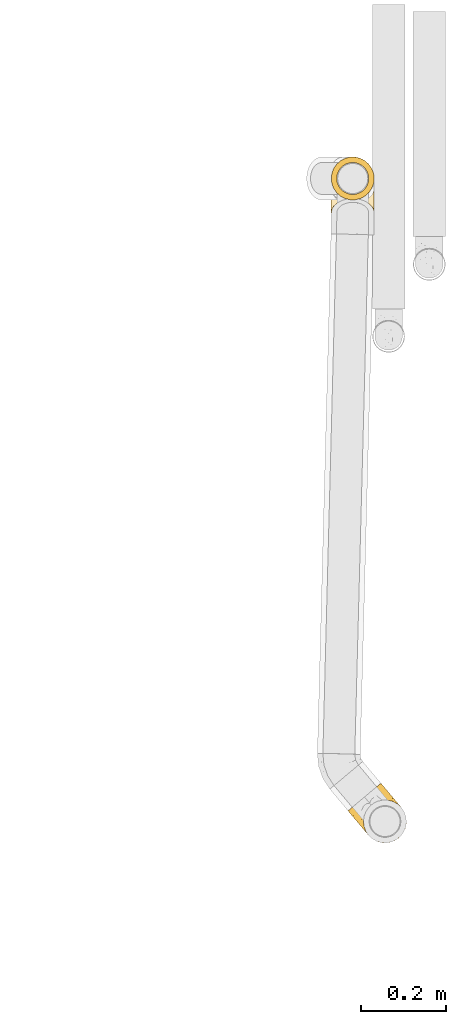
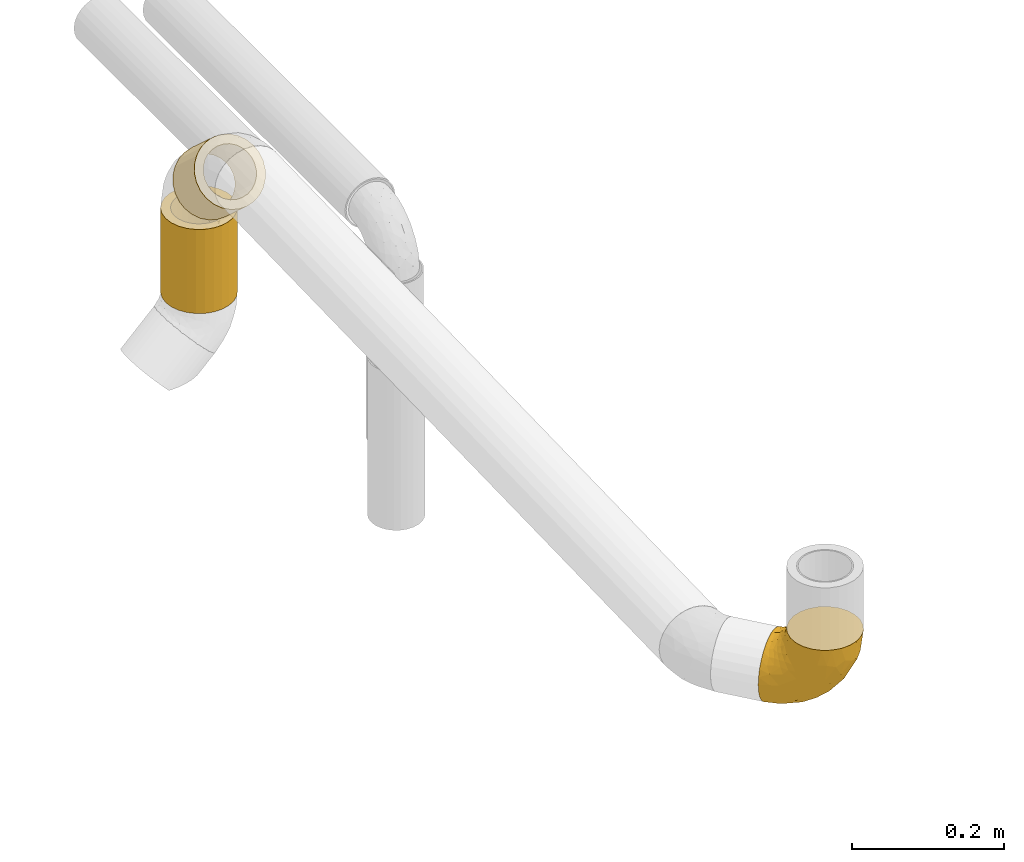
# One storey, part 8 of 156: 3 coverings.
"""IFC2X3 building model written with IfcOpenShell, lengths in millimetres."""

from ifc_helpers import new_model, entity, si_unit, converted_unit, derived_unit, direction, frame, origin_with_axes, origin_2d_with_axis, place, context, subcontext, project, spatial, hollow_circle, extrude, open_shell, surface_model, source, transform, mapped, element, save


model = new_model("IFC2X3")

# Units and contexts
model_context = context("Model", 3, precision=0.01, world=frame((0.0, 4.29681676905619e-09, 0.0)), true_north=direction((4.01073788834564e-13, 1.0)))
plan_context = context("Plan", 3, precision=0.01, world=frame((0.0, 4.29681676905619e-09, 0.0)), true_north=direction((4.01073788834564e-13, 1.0)))
body_context = subcontext(model_context, "Body", "Model", "MODEL_VIEW")
ifc_project = project(units=[converted_unit("PLANEANGLEUNIT", "DEGREE", entity("IfcPositiveLengthMeasure", 0.0174532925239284), si_unit("PLANEANGLEUNIT", "RADIAN"), dimensions=[0, 0, 0, 0, 0, 0, 0]), si_unit("AREAUNIT", "SQUARE_METRE"), si_unit("LENGTHUNIT", "METRE", prefix="MILLI"), si_unit("MASSUNIT", "GRAM", prefix="KILO"), si_unit("POWERUNIT", "WATT"), si_unit("PRESSUREUNIT", "PASCAL", prefix="KILO"), si_unit("FORCEUNIT", "NEWTON", prefix="KILO"), si_unit("ELECTRICVOLTAGEUNIT", "VOLT"), si_unit("ELECTRICCURRENTUNIT", "AMPERE"), si_unit("THERMODYNAMICTEMPERATUREUNIT", "DEGREE_CELSIUS"), si_unit("TIMEUNIT", "SECOND"), si_unit("VOLUMEUNIT", "CUBIC_METRE"), derived_unit("LINEARVELOCITYUNIT", [(si_unit("LENGTHUNIT", "METRE"), 1), (si_unit("TIMEUNIT", "SECOND"), -1)]), derived_unit("VOLUMETRICFLOWRATEUNIT", [(si_unit("VOLUMEUNIT", "CUBIC_METRE"), 1), (si_unit("TIMEUNIT", "SECOND"), -1)]), derived_unit("THERMALTRANSMITTANCEUNIT", [(si_unit("POWERUNIT", "WATT"), 1), (si_unit("THERMODYNAMICTEMPERATUREUNIT", "KELVIN"), -1), (si_unit("AREAUNIT", "SQUARE_METRE"), -1)]), derived_unit("SOUNDPRESSUREUNIT", [(si_unit("PRESSUREUNIT", "PASCAL"), 1)])], contexts=[model_context, plan_context])

# Site, building, storey
site_placement = place(None, frame((0.0, -4.29681676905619e-09, 0.0), z_axis=(0.0, 0.0, 1.0), x_axis=(1.0, 0.0, 0.0)))
site = spatial("IfcSite", under=ifc_project, at=site_placement, CompositionType="ELEMENT")
building_placement = place(site_placement, frame((0.0, 4.29681676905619e-09, 0.0), z_axis=(0.0, 0.0, 1.0), x_axis=(1.0, 0.0, 0.0)))
building = spatial("IfcBuilding", under=site, at=building_placement, Name="mc-building", CompositionType="ELEMENT")
storey_placement = place(building_placement, frame((0.0, 0.0, 205200.0), z_axis=(0.0, 0.0, 1.0), x_axis=(1.0, 0.0, 0.0)))
storey = spatial("IfcBuildingStorey", under=building, at=storey_placement, Name="Nivå D + 1,2 m", CompositionType="ELEMENT", Elevation=205200.0)

# Coverings
shared_shape_1 = source(origin_with_axes(), body_context, "Body", "SurfaceModel", [
    surface_model("IfcShellBasedSurfaceModel", [(11.24292, 75.0, 49.23258), (-31.47888, 75.0, 39.48835), (0.0, 75.0, 50.5), (31.49394, 75.0, 39.47635), (21.91909, 75.0, 45.49509), (45.50245, 75.0, 21.90382), (39.48835, 75.0, 31.47888), (-45.50245, 75.0, -21.90382), (-49.23258, 75.0, 11.24292), (-11.23089, 75.0, 49.23533), (-21.90382, 75.0, 45.50245), (-45.49509, 75.0, 21.91909), (-39.47635, 75.0, 31.49394), (-50.5, 75.0, 0.0), (49.23533, 75.0, 11.23089), (49.23258, 75.0, -11.24292), (39.47635, 75.0, -31.49394), (45.49509, 75.0, -21.91909), (31.47888, 75.0, -39.48835), (21.90382, 75.0, -45.50245), (-11.24292, 75.0, -49.23258), (11.23089, 75.0, -49.23533), (0.0, 75.0, -50.5), (-31.49394, 75.0, -39.47635), (-39.48835, 75.0, -31.47888), (-49.23533, 75.0, -11.23089), (-21.91909, 75.0, -45.49509), (50.5, 75.0, 0.0), (-75.0, 25.25, -43.73428), (-75.0, 50.5, 0.0), (-75.0, 48.77925, -13.07036), (-75.0, 43.73428, -25.25), (-75.0, 13.07036, 48.77925), (-75.0, 35.70889, -35.70889), (-75.0, 13.07036, -48.77925), (-75.0, 48.77925, 13.07036), (-75.0, 35.70889, 35.70889), (-75.0, 43.73428, 25.25), (-75.0, 25.25, 43.73428), (-75.0, 0.0, 50.5), (-75.0, 0.0, -50.5), (-75.0, -35.70889, -35.70889), (-75.0, -13.07036, -48.77925), (-75.0, -25.25, -43.73428), (-75.0, -25.25, 43.73428), (-75.0, -43.73428, -25.25), (-75.0, -48.77925, -13.07036), (-75.0, -50.5, 0.0), (-75.0, -35.70889, 35.70889), (-75.0, -13.07036, 48.77925), (-75.0, -43.73428, 25.25), (-75.0, -48.77925, 13.07036), (12.64934, -12.64934, 0.0), (26.53163, 1.23295, 0.0), (11.64011, -11.64012, 17.0697), (-36.21837, -44.35759, 0.0), (-43.96193, -45.82224, 8.69831), (-50.1633, -46.56625, 0.0), (-13.93902, -32.39238, 13.94061), (-27.04529, -32.26369, 27.28364), (-45.2062, -43.62199, 17.67364), (-52.64686, -39.03065, 29.20162), (6.1382, 52.8732, 49.67312), (-19.65704, -0.83379, 46.83764), (-49.45987, -19.06709, 45.22422), (-23.23209, -15.49393, 41.16316), (-49.7688, -7.34228, 49.26021), (-44.8156, -29.06527, 37.91745), (33.6367, 44.70154, 33.50702), (26.64162, 52.3117, 41.24235), (21.07138, 25.24575, 38.06097), (-4.22725, 24.69178, 49.09447), (-5.70904, 46.29874, 50.5), (-21.96699, 21.96699, 50.5), (0.2263, 8.20988, 43.53163), (35.45552, 17.83502, 10.6165), (44.35759, 36.21837, 0.0), (44.47618, 45.03363, 15.14065), (-46.29874, 5.70904, 50.5), (-27.11707, 6.63076, 49.78474), (33.03742, 23.23942, 23.31327), (41.55445, 52.84592, 25.41048), (46.56625, 50.1633, 0.0), (4.57882, -11.26336, 27.48812), (22.55206, 4.12106, 21.73596), (19.66588, 8.90627, 30.22564), (-1.23295, -26.53163, 0.0), (12.07449, 31.0651, 45.19532), (17.71923, 53.83757, 46.32595), (3.04218, -2.48883, 36.42539), (-13.45794, -19.37586, 33.63512), (-18.72566, -35.44461, 0.0), (35.44461, 18.72566, 0.0), (-48.52842, 68.17879, 16.68598), (-55.27416, 12.69306, 49.57038), (-58.88306, 3.20586, 50.5), (-38.27136, 29.97394, 47.59046), (-23.57111, 41.59228, 48.61379), (-36.94496, 65.19489, 35.7157), (-27.7375, 65.85146, 42.76423), (-61.4974, 42.7792, 30.74245), (-63.84733, 32.17071, 40.06434), (-51.42312, 36.25154, 40.88495), (-45.46439, 62.06116, 26.87553), (-43.34221, 68.87219, 26.87553), (-36.51863, 43.60511, 43.68418), (-65.25465, 51.47265, 9.82931), (-62.75, 53.78238, 0.0), (-68.875, 52.14119, 0.0), (-51.88239, 69.84084, 0.0), (-64.63162, 17.93727, 47.55155), (-67.6261, 47.6319, 19.32551), (-68.85458, 40.6091, 30.74245), (-44.41033, 19.8553, 49.06838), (-54.82145, 23.11094, 46.65592), (-18.51685, 60.44696, 47.66853), (-54.54935, 48.93662, 28.23238), (-62.70186, 49.7903, 18.59835), (-3.20586, 58.88306, 50.5), (-61.04403, 53.85982, 9.12542), (-30.90564, 55.6835, 42.76423), (-40.3113, 56.53409, 35.71531), (-52.18855, 61.13263, 14.72938), (-53.78238, 62.75, 0.0), (-56.73444, 57.02186, 10.61847), (-58.26619, 58.26619, 0.0), (-13.83801, 34.13287, 50.5), (-70.20679, 50.0494, 9.52724), (-46.98514, 47.44109, 35.7157), (-50.60359, 55.15507, 25.56392), (-52.83369, 43.2423, 35.13728), (-58.30018, 52.78702, 17.93024), (-34.13287, 13.83801, 50.5), (-51.7235, 52.67811, -26.88284), (-57.10258, 45.71425, -29.92521), (-56.9186, 54.00325, -17.71529), (-60.51936, 21.24165, -46.65592), (-70.0781, 47.08652, -19.32551), (-67.84416, 50.44944, -10.35086), (-64.15319, 48.81348, -19.32551), (-18.53163, 60.44501, -47.6637), (-62.8657, 52.46804, -10.44324), (-57.90228, 34.17845, -40.06435), (-65.95799, 41.25474, -30.74245), (-43.35228, 68.87084, -26.8602), (-48.5334, 68.17884, -16.67216), (-45.47548, 62.05985, -26.8602), (-36.95883, 65.19564, -35.70208), (-55.23148, 12.55824, -49.59768), (-52.18863, 61.13975, -14.71703), (-67.2194, 31.43175, -40.06434), (-55.97795, 58.02605, -9.97117), (-3.20586, 58.88306, -50.5), (-51.08787, 25.5783, -46.32865), (-41.32575, 29.23594, -47.11339), (-44.57478, 19.12548, -49.20135), (-23.58829, 41.57625, -48.61219), (-31.49814, 46.19734, -45.04631), (-38.07713, 57.85881, -37.07141), (-30.92319, 55.68162, -42.7546), (-38.79962, 50.15024, -39.79427), (-27.75338, 65.85005, -42.7546), (-40.50037, 40.68263, -43.08729), (-31.85017, 34.10086, -48.04724), (-5.70904, 46.29874, -50.5), (-21.96699, 21.96699, -50.5), (-13.83801, 34.13287, -50.5), (-32.99402, 23.81556, -49.7299), (-58.88306, 3.20586, -50.5), (-49.98369, 39.29273, -39.54988), (-47.00535, 47.43996, -35.70209), (-69.84084, 51.88239, 0.0), (-44.82061, 55.09846, -32.26415), (-49.27707, 57.82009, -24.66381), (-46.29874, 5.70904, -50.5), (-34.13287, 13.83801, -50.5), (-27.12034, 6.63398, -49.78551), (-44.8115, -29.06446, -37.91714), (-49.45933, -19.06701, -45.22419), (-23.22135, -15.48723, -41.1635), (3.03431, -2.47986, -36.43681), (0.21934, 8.21978, -43.53855), (21.06009, 25.25195, -38.07219), (19.65845, 8.91335, -30.23922), (-4.23256, 24.69711, -49.09625), (-49.7688, -7.34228, -49.26021), (-43.96192, -45.82226, -8.69822), (-45.20209, -43.62105, -17.67341), (-19.66242, -0.82834, -46.8407), (12.06287, 31.07048, -45.20169), (-52.64059, -39.02974, -29.20117), (-27.03461, -32.25951, -27.28279), (11.63925, -11.63926, -17.0731), (4.56555, -11.2681, -27.49661), (6.13272, 52.87845, -49.67434), (44.47172, 45.03273, -15.15371), (33.62422, 44.70155, -33.52058), (35.44701, 17.82392, -10.62791), (26.62716, 52.31215, -41.25239), (-13.93805, -32.39219, -13.93949), (22.54286, 4.11912, -21.74918), (33.03036, 23.24222, -23.32782), (41.54481, 52.84076, -25.42509), (-13.43916, -19.35244, -33.6456), (17.70473, 53.84028, -46.33234)], [open_shell([[[0, 1, 2]], [[3, 0, 4]], [[0, 5, 1]], [[6, 5, 0]], [[3, 6, 0]], [[5, 7, 8]], [[9, 1, 10]], [[9, 2, 1]], [[11, 12, 8]], [[8, 12, 1]], [[5, 8, 1]], [[7, 13, 8]], [[5, 14, 7]], [[7, 14, 15]], [[16, 15, 17]], [[16, 18, 19]], [[19, 20, 15]], [[19, 15, 16]], [[21, 22, 19]], [[7, 23, 24]], [[25, 13, 7]], [[20, 23, 7]], [[26, 23, 20]], [[7, 15, 20]], [[22, 20, 19]], [[14, 27, 15]], [[28, 29, 30]], [[28, 30, 31]], [[29, 28, 32]], [[28, 31, 33]], [[32, 28, 34]], [[35, 36, 37]], [[36, 35, 32]], [[36, 32, 38]], [[35, 29, 32]], [[34, 39, 32]], [[34, 40, 39]], [[41, 40, 42]], [[41, 42, 43]], [[44, 41, 45]], [[41, 44, 39]], [[46, 47, 45]], [[44, 47, 48]], [[49, 39, 44]], [[50, 47, 51]], [[47, 50, 48]], [[45, 47, 44]], [[39, 40, 41]], [[52, 53, 54]], [[55, 56, 57]], [[58, 59, 60]], [[60, 59, 61]], [[62, 0, 2]], [[63, 64, 65]], [[50, 51, 60]], [[49, 64, 66]], [[48, 67, 44]], [[61, 48, 50]], [[68, 69, 70]], [[69, 3, 4]], [[71, 72, 73]], [[39, 49, 66]], [[63, 65, 74]], [[75, 76, 77]], [[78, 79, 73]], [[75, 77, 80]], [[69, 68, 3]], [[64, 44, 67]], [[5, 77, 14]], [[48, 61, 67]], [[5, 6, 81]], [[77, 82, 14]], [[79, 71, 73]], [[54, 83, 58]], [[54, 84, 83]], [[68, 6, 3]], [[62, 2, 72]], [[68, 70, 85]], [[51, 57, 56]], [[54, 86, 52]], [[87, 88, 62]], [[87, 69, 88]], [[44, 64, 49]], [[83, 89, 90]], [[80, 77, 81]], [[56, 91, 58]], [[80, 68, 85]], [[81, 77, 5]], [[74, 71, 63]], [[60, 61, 50]], [[58, 60, 56]], [[58, 86, 54]], [[88, 69, 4]], [[70, 69, 87]], [[74, 70, 87]], [[70, 89, 85]], [[6, 68, 81]], [[80, 81, 68]], [[65, 64, 67]], [[63, 79, 66]], [[90, 67, 59]], [[74, 65, 89]], [[63, 66, 64]], [[39, 66, 78]], [[72, 71, 62]], [[87, 62, 71]], [[75, 80, 84]], [[75, 53, 92]], [[4, 0, 88]], [[62, 88, 0]], [[82, 77, 76]], [[82, 27, 14]], [[67, 61, 59]], [[51, 47, 57]], [[51, 56, 60]], [[66, 79, 78]], [[71, 79, 63]], [[83, 85, 89]], [[84, 80, 85]], [[90, 89, 65]], [[58, 83, 59]], [[67, 90, 65]], [[59, 83, 90]], [[83, 84, 85]], [[75, 84, 54]], [[70, 74, 89]], [[71, 74, 87]], [[54, 53, 75]], [[91, 56, 55]], [[91, 86, 58]], [[76, 75, 92]], [[11, 8, 93]], [[78, 94, 95]], [[96, 73, 97]], [[94, 32, 95]], [[98, 99, 1]], [[100, 101, 102]], [[103, 104, 93]], [[105, 102, 96]], [[106, 107, 108]], [[8, 109, 93]], [[110, 101, 38]], [[37, 111, 35]], [[36, 112, 37]], [[37, 112, 111]], [[8, 13, 109]], [[113, 96, 114]], [[97, 72, 115]], [[100, 116, 117]], [[98, 1, 12]], [[10, 99, 115]], [[32, 94, 110]], [[12, 11, 104]], [[115, 118, 9]], [[10, 115, 9]], [[106, 119, 107]], [[120, 99, 98]], [[121, 120, 98]], [[103, 93, 122]], [[93, 123, 122]], [[124, 123, 125]], [[97, 115, 120]], [[104, 98, 12]], [[38, 101, 36]], [[121, 98, 103]], [[97, 105, 96]], [[10, 1, 99]], [[97, 73, 126]], [[123, 93, 109]], [[111, 106, 127]], [[128, 129, 116]], [[129, 103, 122]], [[102, 101, 114]], [[112, 101, 100]], [[125, 119, 124]], [[129, 128, 121]], [[96, 102, 114]], [[130, 128, 116]], [[113, 114, 94]], [[97, 120, 105]], [[118, 115, 72]], [[118, 2, 9]], [[35, 127, 29]], [[115, 99, 120]], [[93, 104, 11]], [[98, 104, 103]], [[124, 129, 122]], [[119, 125, 107]], [[116, 129, 131]], [[32, 39, 95]], [[132, 113, 78]], [[94, 114, 110]], [[96, 132, 73]], [[78, 113, 94]], [[132, 96, 113]], [[101, 110, 114]], [[38, 32, 110]], [[127, 106, 108]], [[117, 106, 111]], [[121, 105, 120]], [[102, 105, 128]], [[29, 127, 108]], [[111, 127, 35]], [[129, 121, 103]], [[105, 121, 128]], [[117, 116, 131]], [[130, 100, 102]], [[101, 112, 36]], [[111, 112, 100]], [[100, 117, 111]], [[119, 117, 131]], [[117, 119, 106]], [[119, 131, 124]], [[129, 124, 131]], [[123, 124, 122]], [[100, 130, 116]], [[102, 128, 130]], [[126, 72, 97]], [[133, 134, 135]], [[28, 136, 34]], [[137, 138, 139]], [[140, 26, 20]], [[141, 138, 107]], [[134, 142, 143]], [[144, 145, 7]], [[146, 144, 147]], [[148, 34, 136]], [[145, 146, 149]], [[150, 28, 33]], [[31, 137, 143]], [[125, 151, 141]], [[28, 150, 136]], [[109, 13, 25]], [[140, 20, 152]], [[149, 123, 145]], [[153, 154, 155]], [[145, 123, 109]], [[145, 25, 7]], [[137, 31, 30]], [[148, 153, 155]], [[140, 156, 157]], [[23, 147, 24]], [[158, 159, 160]], [[23, 26, 161]], [[158, 147, 159]], [[162, 157, 163]], [[164, 140, 152]], [[31, 143, 33]], [[161, 147, 23]], [[161, 140, 159]], [[162, 160, 157]], [[156, 140, 164]], [[165, 156, 166]], [[24, 144, 7]], [[154, 167, 155]], [[109, 25, 145]], [[34, 148, 168]], [[162, 169, 170]], [[141, 151, 135]], [[30, 29, 171]], [[134, 143, 139]], [[150, 143, 142]], [[146, 172, 173]], [[149, 135, 151]], [[20, 22, 152]], [[140, 161, 26]], [[147, 161, 159]], [[147, 144, 24]], [[145, 144, 146]], [[135, 134, 139]], [[134, 170, 169]], [[141, 139, 138]], [[172, 133, 173]], [[168, 148, 174]], [[168, 40, 34]], [[167, 165, 175]], [[175, 174, 155]], [[148, 155, 174]], [[163, 167, 154]], [[175, 155, 167]], [[153, 148, 136]], [[136, 142, 153]], [[169, 153, 142]], [[162, 163, 154]], [[163, 156, 165]], [[154, 153, 169]], [[160, 162, 170]], [[154, 169, 162]], [[134, 169, 142]], [[172, 160, 170]], [[157, 160, 159]], [[133, 172, 170]], [[158, 146, 147]], [[134, 133, 170]], [[173, 135, 149]], [[140, 157, 159]], [[157, 156, 163]], [[160, 172, 158]], [[146, 158, 172]], [[135, 173, 133]], [[149, 151, 123]], [[149, 146, 173]], [[143, 150, 33]], [[136, 150, 142]], [[138, 30, 171]], [[143, 137, 139]], [[30, 138, 137]], [[107, 138, 171]], [[125, 141, 107]], [[135, 139, 141]], [[156, 164, 166]], [[165, 167, 163]], [[123, 151, 125]], [[174, 165, 176]], [[177, 178, 179]], [[180, 179, 181]], [[180, 182, 183]], [[165, 164, 184]], [[174, 185, 40]], [[178, 43, 42]], [[177, 43, 178]], [[186, 46, 187]], [[176, 184, 188]], [[181, 184, 189]], [[190, 187, 45]], [[45, 187, 46]], [[190, 177, 191]], [[52, 86, 192]], [[177, 41, 43]], [[183, 193, 180]], [[189, 184, 194]], [[22, 194, 164]], [[192, 53, 52]], [[22, 21, 194]], [[17, 15, 195]], [[16, 196, 18]], [[197, 76, 92]], [[195, 15, 82]], [[196, 198, 18]], [[199, 187, 191]], [[197, 192, 200]], [[201, 195, 197]], [[16, 17, 202]], [[189, 198, 182]], [[202, 17, 195]], [[76, 195, 82]], [[188, 178, 185]], [[177, 179, 203]], [[202, 201, 196]], [[183, 182, 196]], [[190, 45, 41]], [[18, 198, 19]], [[19, 198, 204]], [[46, 186, 57]], [[199, 91, 186]], [[199, 191, 193]], [[91, 55, 186]], [[182, 198, 196]], [[204, 198, 189]], [[183, 196, 201]], [[181, 182, 180]], [[201, 202, 195]], [[196, 16, 202]], [[185, 178, 42]], [[179, 178, 188]], [[181, 179, 188]], [[180, 193, 203]], [[40, 185, 42]], [[185, 174, 176]], [[194, 21, 204]], [[184, 164, 194]], [[76, 197, 195]], [[197, 53, 192]], [[194, 204, 189]], [[21, 19, 204]], [[15, 27, 82]], [[177, 190, 41]], [[187, 190, 191]], [[57, 186, 55]], [[57, 47, 46]], [[199, 186, 187]], [[184, 176, 165]], [[185, 176, 188]], [[201, 200, 183]], [[183, 200, 193]], [[199, 193, 192]], [[180, 203, 179]], [[193, 191, 203]], [[177, 203, 191]], [[197, 200, 201]], [[193, 200, 192]], [[184, 181, 188]], [[182, 181, 189]], [[192, 86, 199]], [[199, 86, 91]], [[92, 53, 197]]])]),
])
covering_1_placement = place(storey_placement, frame((348037.84566, 459657.15345, 4377.41381999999), z_axis=(0.766044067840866, 0.642788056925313, 0.0), x_axis=(0.0, 0.0, -1.0)))
element("IfcCovering", 1, at=covering_1_placement, inside=storey, Name="BI17T - Cellegummi 13 mm SPV fett", PredefinedType="INSULATION", context=body_context, shape_type="MappedRepresentation", body=[
    mapped(shared_shape_1, transform((0.0, 0.0, 0.0), scale=1.0)),
])
shared_shape_2 = source(origin_with_axes(), body_context, "Body", "SweptSolid", [
    extrude(hollow_circle(Radius=50.5, WallThickness=13.0, at=origin_2d_with_axis()), frame((0.0, 0.0, 0.0), z_axis=(1.0, 0.0, 0.0), x_axis=(0.0, 1.0, 0.0)), (0.0, 0.0, 1.0), 134.6),
])
covering_2_placement = place(storey_placement, frame((347962.03069, 461168.55904, 4102.01918999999), z_axis=(0.0, 0.9999999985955, 5.29999999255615e-05), x_axis=(0.0, -5.29999999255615e-05, 0.9999999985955)))
element("IfcCovering", 2, at=covering_2_placement, inside=storey, Name="BI17T - Cellegummi 13 mm SPV fett", PredefinedType="INSULATION", context=body_context, shape_type="MappedRepresentation", body=[
    mapped(shared_shape_2, transform((0.0, 0.0, 0.0), scale=1.0)),
])
shared_shape_3 = source(origin_with_axes(), body_context, "Body", "SweptSolid", [
    extrude(hollow_circle(Radius=50.5, WallThickness=13.0, at=origin_2d_with_axis()), frame((0.0, 0.0, 0.0), z_axis=(1.0, 0.0, 0.0), x_axis=(0.0, 1.0, 0.0)), (0.0, 0.0, 1.0), 75.9),
])
covering_3_placement = place(storey_placement, frame((347962.03069, 461087.47298, 4343.08236999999), z_axis=(0.0, 0.669964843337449, 0.742392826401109), x_axis=(0.0, 0.742392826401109, -0.669964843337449)))
element("IfcCovering", 3, at=covering_3_placement, inside=storey, Name="BI17T - Cellegummi 13 mm SPV fett", PredefinedType="INSULATION", context=body_context, shape_type="MappedRepresentation", body=[
    mapped(shared_shape_3, transform((0.0, 0.0, 0.0), scale=1.0)),
])

save(model, "model.ifc")
